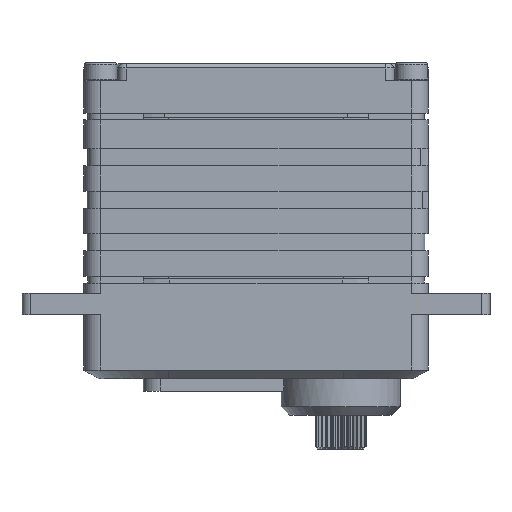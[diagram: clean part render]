
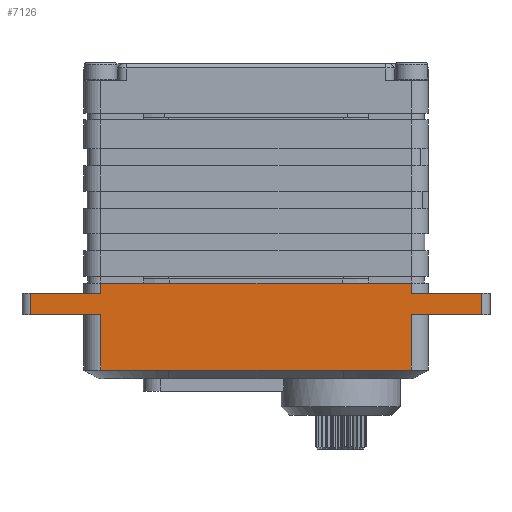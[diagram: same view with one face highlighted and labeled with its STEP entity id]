
A CAD part, front view. The second image highlights one B-rep face of the part: STEP entity #7126.
In plain terms, the highlighted planar face has unit normal (0, -1, 0).
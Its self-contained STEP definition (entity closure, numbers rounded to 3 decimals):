
#175 = VERTEX_POINT ( 'NONE', #10524 ) ;
#287 = EDGE_CURVE ( 'NONE', #175, #11984, #18965, .T. ) ;
#346 = DIRECTION ( 'NONE',  ( -1., 0., 0. ) ) ;
#487 = EDGE_CURVE ( 'NONE', #15733, #19938, #16272, .T. ) ;
#616 = EDGE_CURVE ( 'NONE', #13566, #14883, #12241, .T. ) ;
#681 = CARTESIAN_POINT ( 'NONE',  ( -39.674, -10.512, 31.825 ) ) ;
#726 = CARTESIAN_POINT ( 'NONE',  ( -31.424, -10.512, 33.025 ) ) ;
#910 = DIRECTION ( 'NONE',  ( -1., 0., 0. ) ) ;
#952 = VECTOR ( 'NONE', #9260, 1000. ) ;
#1085 = CARTESIAN_POINT ( 'NONE',  ( 7.076, -10.512, 33.025 ) ) ;
#1163 = VECTOR ( 'NONE', #13475, 1000. ) ;
#1176 = AXIS2_PLACEMENT_3D ( 'NONE', #1085, #12803, #16250 ) ;
#1416 = ORIENTED_EDGE ( 'NONE', *, *, #19309, .T. ) ;
#1471 = CARTESIAN_POINT ( 'NONE',  ( 5.076, -10.512, 22.825 ) ) ;
#1584 = CARTESIAN_POINT ( 'NONE',  ( -31.424, -10.512, 31.825 ) ) ;
#2240 = DIRECTION ( 'NONE',  ( 1., 0., 0. ) ) ;
#2500 = VERTEX_POINT ( 'NONE', #21654 ) ;
#2535 = CARTESIAN_POINT ( 'NONE',  ( 7.076, -10.512, 33.025 ) ) ;
#2639 = ORIENTED_EDGE ( 'NONE', *, *, #616, .T. ) ;
#2957 = VERTEX_POINT ( 'NONE', #15359 ) ;
#3125 = EDGE_CURVE ( 'NONE', #5472, #11984, #9116, .T. ) ;
#3252 = FACE_OUTER_BOUND ( 'NONE', #4618, .T. ) ;
#3375 = DIRECTION ( 'NONE',  ( 0., 0., 1. ) ) ;
#3566 = VECTOR ( 'NONE', #12388, 1000. ) ;
#3768 = CARTESIAN_POINT ( 'NONE',  ( -2.927, -10.512, 22.825 ) ) ;
#3771 = LINE ( 'NONE', #11124, #15881 ) ;
#3848 = DIRECTION ( 'NONE',  ( -1., 0., 0. ) ) ;
#3921 = VECTOR ( 'NONE', #910, 1000. ) ;
#4501 = DIRECTION ( 'NONE',  ( 1., 0., 0. ) ) ;
#4618 = EDGE_LOOP ( 'NONE', ( #18505, #20233, #16463, #1416, #21768, #2639, #21829, #20684, #13747, #17769, #11513, #6654, #20341, #15468 ) ) ;
#5038 = CARTESIAN_POINT ( 'NONE',  ( 5.076, -10.512, 29.325 ) ) ;
#5429 = CARTESIAN_POINT ( 'NONE',  ( -31.424, -10.512, 22.825 ) ) ;
#5472 = VERTEX_POINT ( 'NONE', #1471 ) ;
#5511 = CARTESIAN_POINT ( 'NONE',  ( 13.326, -10.512, 29.325 ) ) ;
#5514 = CARTESIAN_POINT ( 'NONE',  ( 7.076, -10.512, 22.825 ) ) ;
#5782 = VECTOR ( 'NONE', #19575, 1000. ) ;
#5791 = CARTESIAN_POINT ( 'NONE',  ( -31.424, -10.512, 33.025 ) ) ;
#6016 = CARTESIAN_POINT ( 'NONE',  ( -31.424, -10.512, 29.325 ) ) ;
#6041 = PLANE ( 'NONE',  #1176 ) ;
#6494 = VERTEX_POINT ( 'NONE', #726 ) ;
#6654 = ORIENTED_EDGE ( 'NONE', *, *, #17717, .T. ) ;
#6890 = VECTOR ( 'NONE', #11583, 1000. ) ;
#7126 = ADVANCED_FACE ( 'NONE', ( #3252 ), #6041, .F. ) ;
#7186 = EDGE_CURVE ( 'NONE', #175, #19938, #3771, .T. ) ;
#8261 = VECTOR ( 'NONE', #9195, 1000. ) ;
#8523 = CARTESIAN_POINT ( 'NONE',  ( -31.424, -10.512, 29.325 ) ) ;
#8738 = EDGE_CURVE ( 'NONE', #19817, #2500, #19753, .T. ) ;
#9116 = LINE ( 'NONE', #5514, #17159 ) ;
#9124 = LINE ( 'NONE', #1584, #17433 ) ;
#9195 = DIRECTION ( 'NONE',  ( 1., 0., 0. ) ) ;
#9260 = DIRECTION ( 'NONE',  ( 0., 0., -1. ) ) ;
#10089 = EDGE_CURVE ( 'NONE', #15733, #2957, #19494, .T. ) ;
#10524 = CARTESIAN_POINT ( 'NONE',  ( -23.421, -10.512, 22.825 ) ) ;
#10565 = LINE ( 'NONE', #15191, #1163 ) ;
#10946 = LINE ( 'NONE', #681, #12286 ) ;
#11124 = CARTESIAN_POINT ( 'NONE',  ( 7.076, -10.512, 22.825 ) ) ;
#11243 = DIRECTION ( 'NONE',  ( 0., 0., -1. ) ) ;
#11513 = ORIENTED_EDGE ( 'NONE', *, *, #17557, .F. ) ;
#11583 = DIRECTION ( 'NONE',  ( 0., 0., 1. ) ) ;
#11751 = LINE ( 'NONE', #2535, #18463 ) ;
#11984 = VERTEX_POINT ( 'NONE', #20783 ) ;
#12241 = LINE ( 'NONE', #19918, #6890 ) ;
#12286 = VECTOR ( 'NONE', #2240, 1000. ) ;
#12388 = DIRECTION ( 'NONE',  ( 0., 0., 1. ) ) ;
#12803 = DIRECTION ( 'NONE',  ( 0., 1., 0. ) ) ;
#12952 = DIRECTION ( 'NONE',  ( -1., 0., 0. ) ) ;
#13446 = VERTEX_POINT ( 'NONE', #14014 ) ;
#13447 = LINE ( 'NONE', #5511, #16392 ) ;
#13475 = DIRECTION ( 'NONE',  ( 1., 0., 0. ) ) ;
#13482 = VERTEX_POINT ( 'NONE', #17840 ) ;
#13566 = VERTEX_POINT ( 'NONE', #16365 ) ;
#13747 = ORIENTED_EDGE ( 'NONE', *, *, #17617, .F. ) ;
#14014 = CARTESIAN_POINT ( 'NONE',  ( -31.424, -10.512, 31.825 ) ) ;
#14140 = LINE ( 'NONE', #14783, #21724 ) ;
#14572 = LINE ( 'NONE', #19424, #3566 ) ;
#14783 = CARTESIAN_POINT ( 'NONE',  ( -39.674, -10.512, 30.525 ) ) ;
#14883 = VERTEX_POINT ( 'NONE', #21267 ) ;
#15191 = CARTESIAN_POINT ( 'NONE',  ( 5.076, -10.512, 31.825 ) ) ;
#15359 = CARTESIAN_POINT ( 'NONE',  ( -39.674, -10.512, 29.325 ) ) ;
#15468 = ORIENTED_EDGE ( 'NONE', *, *, #487, .T. ) ;
#15699 = EDGE_CURVE ( 'NONE', #19817, #14883, #10565, .T. ) ;
#15733 = VERTEX_POINT ( 'NONE', #8523 ) ;
#15881 = VECTOR ( 'NONE', #12952, 1000. ) ;
#16250 = DIRECTION ( 'NONE',  ( 0., 0., -1. ) ) ;
#16272 = LINE ( 'NONE', #5791, #952 ) ;
#16365 = CARTESIAN_POINT ( 'NONE',  ( 13.326, -10.512, 29.325 ) ) ;
#16392 = VECTOR ( 'NONE', #3848, 1000. ) ;
#16463 = ORIENTED_EDGE ( 'NONE', *, *, #3125, .F. ) ;
#17159 = VECTOR ( 'NONE', #346, 1000. ) ;
#17303 = EDGE_CURVE ( 'NONE', #13446, #6494, #9124, .T. ) ;
#17433 = VECTOR ( 'NONE', #3375, 1000. ) ;
#17557 = EDGE_CURVE ( 'NONE', #13482, #13446, #10946, .T. ) ;
#17617 = EDGE_CURVE ( 'NONE', #6494, #2500, #11751, .T. ) ;
#17717 = EDGE_CURVE ( 'NONE', #13482, #2957, #14140, .T. ) ;
#17769 = ORIENTED_EDGE ( 'NONE', *, *, #17303, .F. ) ;
#17840 = CARTESIAN_POINT ( 'NONE',  ( -39.674, -10.512, 31.825 ) ) ;
#18463 = VECTOR ( 'NONE', #4501, 1000. ) ;
#18505 = ORIENTED_EDGE ( 'NONE', *, *, #7186, .F. ) ;
#18965 = LINE ( 'NONE', #3768, #8261 ) ;
#18987 = VERTEX_POINT ( 'NONE', #5038 ) ;
#19309 = EDGE_CURVE ( 'NONE', #5472, #18987, #14572, .T. ) ;
#19424 = CARTESIAN_POINT ( 'NONE',  ( 5.076, -10.512, 33.025 ) ) ;
#19425 = CARTESIAN_POINT ( 'NONE',  ( 5.076, -10.512, 31.825 ) ) ;
#19494 = LINE ( 'NONE', #6016, #3921 ) ;
#19575 = DIRECTION ( 'NONE',  ( 0., 0., 1. ) ) ;
#19753 = LINE ( 'NONE', #19425, #5782 ) ;
#19817 = VERTEX_POINT ( 'NONE', #19872 ) ;
#19872 = CARTESIAN_POINT ( 'NONE',  ( 5.076, -10.512, 31.825 ) ) ;
#19918 = CARTESIAN_POINT ( 'NONE',  ( 13.326, -10.512, 33.025 ) ) ;
#19938 = VERTEX_POINT ( 'NONE', #5429 ) ;
#20233 = ORIENTED_EDGE ( 'NONE', *, *, #287, .T. ) ;
#20341 = ORIENTED_EDGE ( 'NONE', *, *, #10089, .F. ) ;
#20684 = ORIENTED_EDGE ( 'NONE', *, *, #8738, .T. ) ;
#20783 = CARTESIAN_POINT ( 'NONE',  ( -2.927, -10.512, 22.825 ) ) ;
#21178 = EDGE_CURVE ( 'NONE', #13566, #18987, #13447, .T. ) ;
#21267 = CARTESIAN_POINT ( 'NONE',  ( 13.326, -10.512, 31.825 ) ) ;
#21654 = CARTESIAN_POINT ( 'NONE',  ( 5.076, -10.512, 33.025 ) ) ;
#21724 = VECTOR ( 'NONE', #11243, 1000. ) ;
#21768 = ORIENTED_EDGE ( 'NONE', *, *, #21178, .F. ) ;
#21829 = ORIENTED_EDGE ( 'NONE', *, *, #15699, .F. ) ;
